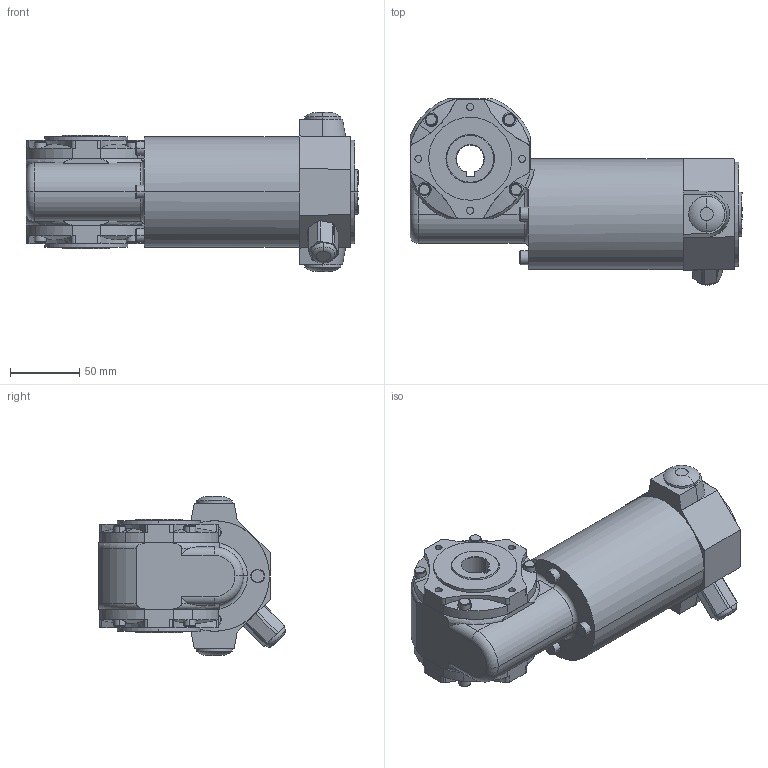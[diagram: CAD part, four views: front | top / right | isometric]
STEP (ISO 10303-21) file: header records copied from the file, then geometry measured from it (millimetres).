
FILE_DESCRIPTION(('OneSpaceDesigner STEP Export'),'2;1');
FILE_NAME('EPG12_GB140.stp','2008-07-15T10:25:36',(''),(''),'OneSpace Designer STEP processor (Jan. 2003) for AP214(CD)(Solid Model)','OneSpace Designer 12.01D 09-Jul-2004 (C) CoCreate Software GmbH','');
FILE_SCHEMA(('AUTOMOTIVE_DESIGN_CC2 {1 2 10303 214 -1 1 5 1}'));
Length unit declared in the file: millimetre
Products named in the file (2): EPG12_GB140
Assembly tree (1 placements, depth 2):
  EPG12_GB140
    EPG12_GB140
Bounding box: 240 x 134.89 x 115 mm (x, y, z)
Volume: 1328387.7 mm3; surface area: 96460.2 mm2
Topology: 1 solids, 1 shells, 307 faces, 777 edges, 504 vertices
Faces by surface type: cylinder 139, plane 102, cone 44, torus 20, bspline 2
Entity records: 16350 total; most frequent: CARTESIAN_POINT 9538, ORIENTED_EDGE 1554, DIRECTION 1125, EDGE_CURVE 777, VERTEX_POINT 504, AXIS2_PLACEMENT_3D 402, EDGE_LOOP 341, VECTOR 321
